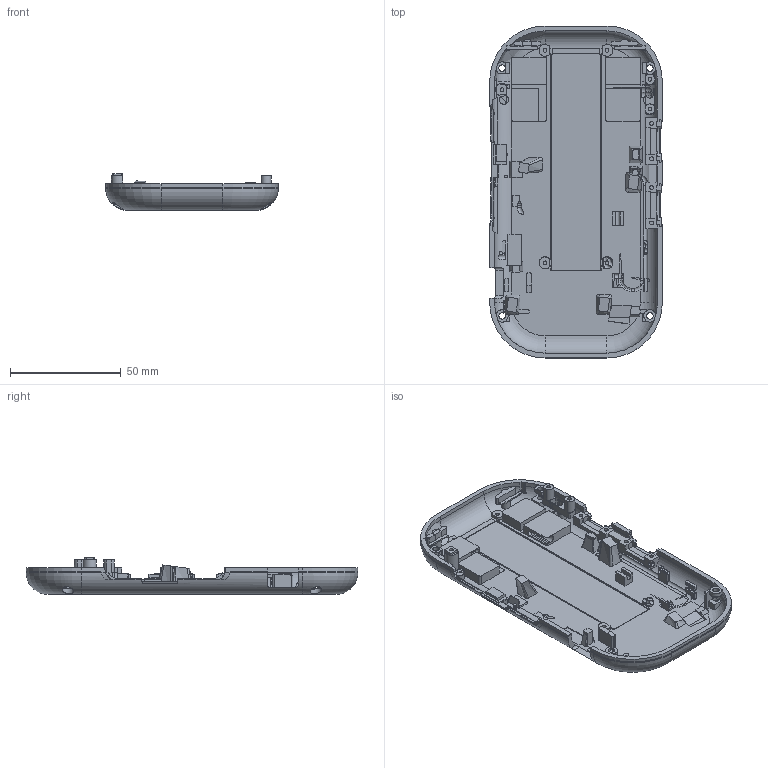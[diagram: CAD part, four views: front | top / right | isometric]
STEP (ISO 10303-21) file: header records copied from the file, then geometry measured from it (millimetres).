
FILE_DESCRIPTION(('Open CASCADE Model'),'2;1');
FILE_NAME('Open CASCADE Shape Model','2026-09-16T15:34:24',('Author'),( 'Open CASCADE'),'Open CASCADE STEP processor 7.7','Open CASCADE 7.7' ,'Unknown');
FILE_SCHEMA(('AUTOMOTIVE_DESIGN { 1 0 10303 214 1 1 1 1 }'));
Products named in the file (1): SOLID
Bounding box: 78 x 150 x 16.6 mm (x, y, z)
Volume: 34412.2 mm3; surface area: 32670.6 mm2
Topology: 1 solids, 1 shells, 1080 faces, 3223 edges, 2156 vertices
Faces by surface type: plane 599, cylinder 294, torus 85, bspline 78, cone 24
Full cylindrical faces by diameter (mm): 1.65 x1, 1.7 x7, 1.8 x4, 2.9 x5, 4.2 x2
Entity records: 132790 total; most frequent: CARTESIAN_POINT 73847, DIRECTION 9528, ORIENTED_EDGE 6446, PCURVE 6446, DEFINITIONAL_REPRESENTATION 6446, LINE 5346, VECTOR 5346, EDGE_CURVE 3223
